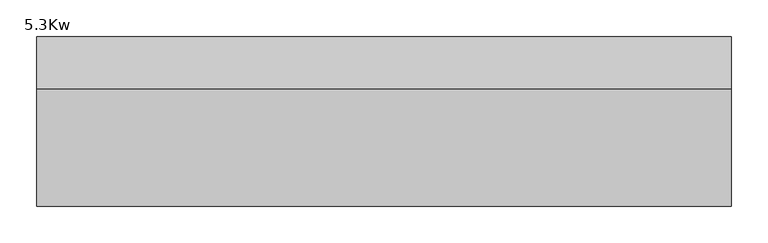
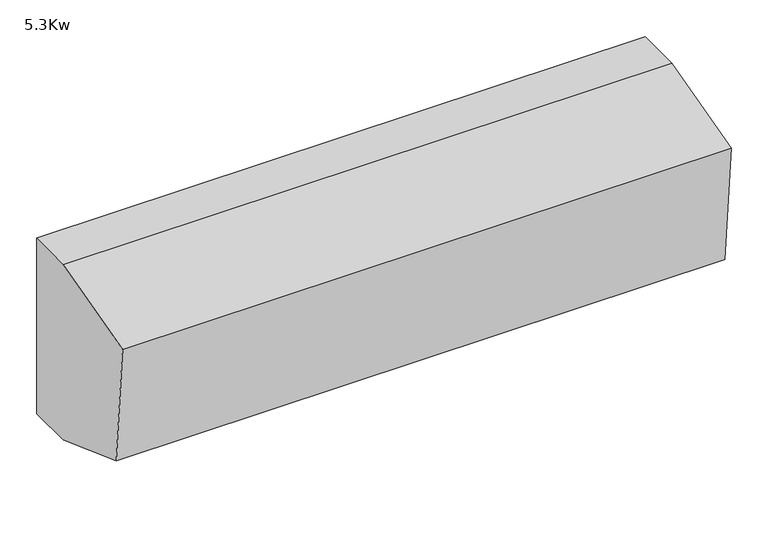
"""IFC4 building model written with IfcOpenShell, lengths in millimetres: proxy geometry, Fan_Coil_Unit-Daikin-FXAQ-P-WallMount-ConnBack : 5.3Kw."""

import ifcopenshell
import ifcopenshell.guid

model = None  # the IFC model being written
_history = None  # IfcOwnerHistory: only IFC2X3 demands one
_inside = {}  # id of a spatial element -> (the spatial element, [elements in it])
_under = {}  # id of a project, library or spatial element -> (it, [spatial elements below it])
_declared = {}  # id of a project -> (the project, [libraries it declares])
_typed = {}  # id of a type object -> (the type object, [elements of that type])
_made_of = {}  # id of a material, layer set ... -> (it, [elements and type objects made of it])


def new_model(schema):
    """Start an empty IFC model of exactly this schema.

    Asked for "IFC4X3", IfcOpenShell would pick the latest addendum, in which some entities
    have other attributes; the version numbers below select the first issue.
    IFC2X3 requires an IfcOwnerHistory on every rooted entity: one is made here for all.
    """
    global model, _history
    if schema == "IFC4X3":
        model = ifcopenshell.file(schema_version=(4, 3, 0, 0))
    else:
        model = ifcopenshell.file(schema=schema)
    _inside.clear()
    _under.clear()
    _declared.clear()
    _typed.clear()
    _made_of.clear()
    _history = None
    if model.schema == "IFC2X3":
        org = make("IfcOrganization", Name="unknown")
        user = make(
            "IfcPersonAndOrganization",
            ThePerson=make("IfcPerson", FamilyName="unknown"),
            TheOrganization=org,
        )
        app = make(
            "IfcApplication",
            ApplicationDeveloper=org,
            Version="unknown",
            ApplicationFullName="unknown",
            ApplicationIdentifier="unknown",
        )
        _history = make(
            "IfcOwnerHistory",
            OwningUser=user,
            OwningApplication=app,
            ChangeAction="ADDED",
            CreationDate=0,
        )
    return model


def make(cls, **values):
    """One entity of the class cls with the attributes given. An attribute that is None is left unset."""
    return model.create_entity(
        cls, **{name: value for name, value in values.items() if value is not None}
    )


def rooted(cls, **values):
    """An entity with a GlobalId (a new one), such as an element, a storey or a relation."""
    return make(cls, GlobalId=ifcopenshell.guid.new(), OwnerHistory=_history, **values)


def si_unit(unit_type, name, prefix=None):
    """IfcSIUnit, for example si_unit("LENGTHUNIT", "METRE", prefix="MILLI")."""
    return make("IfcSIUnit", UnitType=unit_type, Prefix=prefix, Name=name)


def assignment(units):
    """IfcUnitAssignment: the units of a project."""
    return None if units is None else make("IfcUnitAssignment", Units=units)


def point(xyz):
    """IfcCartesianPoint."""
    return None if xyz is None else make("IfcCartesianPoint", Coordinates=xyz)


def direction(xyz):
    """IfcDirection."""
    return None if xyz is None else make("IfcDirection", DirectionRatios=xyz)


def frame(location, z_axis=None, x_axis=None):
    """IfcAxis2Placement3D, a coordinate frame: its origin and axes. An axis left out is left unset."""
    return make(
        "IfcAxis2Placement3D",
        Location=point(location),
        Axis=direction(z_axis),
        RefDirection=direction(x_axis),
    )


def frame_2d(location, x_axis=None):
    """IfcAxis2Placement2D, a coordinate frame in the plane: its origin and x axis."""
    return make(
        "IfcAxis2Placement2D", Location=point(location), RefDirection=direction(x_axis)
    )


def origin():
    """The frame at (0, 0, 0) with its axes left unset."""
    return frame((0.0, 0.0, 0.0))


def place(relative_to, where):
    """IfcLocalPlacement: puts the frame where relative to a parent placement (None: the world)."""
    return make(
        "IfcLocalPlacement", PlacementRelTo=relative_to, RelativePlacement=where
    )


def context(
    kind, dimensions, precision=None, world=None, true_north=None, identifier=None
):
    """IfcGeometricRepresentationContext, for example the 3D "Model" context."""
    return make(
        "IfcGeometricRepresentationContext",
        ContextIdentifier=identifier,
        ContextType=kind,
        CoordinateSpaceDimension=dimensions,
        Precision=precision,
        WorldCoordinateSystem=world,
        TrueNorth=true_north,
    )


def project(units=None, contexts=None):
    """IfcProject with its units and contexts."""
    return rooted(
        "IfcProject",
        Name="project",
        RepresentationContexts=contexts,
        UnitsInContext=assignment(units),
    )


def spatial(cls, under=None, at=None, **own):
    """A site, building, storey or space (cls), placed at a placement, below another one or the project."""
    s = rooted(cls, ObjectPlacement=at, **own)
    if under is not None:
        _under.setdefault(under.id(), (under, []))[1].append(s)
    return s


def polyline(points):
    """IfcPolyline through the points."""
    return make("IfcPolyline", Points=[point(p) for p in points])


def circle_curve(where, radius):
    """IfcCircle in the frame where."""
    return make("IfcCircle", Position=where, Radius=radius)


def trimmed(basis, trim1, trim2, sense, master):
    """IfcTrimmedCurve: the piece of a basis curve between two trims."""
    return make(
        "IfcTrimmedCurve",
        BasisCurve=basis,
        Trim1=trim1,
        Trim2=trim2,
        SenseAgreement=sense,
        MasterRepresentation=master,
    )


def segment(curve, same_sense, transition):
    """IfcCompositeCurveSegment."""
    return make(
        "IfcCompositeCurveSegment",
        Transition=transition,
        SameSense=same_sense,
        ParentCurve=curve,
    )


def composite_curve(segments, self_intersect=None):
    """IfcCompositeCurve: segments joined end to end."""
    return make("IfcCompositeCurve", Segments=segments, SelfIntersect=self_intersect)


def outline(outer, holes=None, kind="AREA"):
    """IfcArbitraryClosedProfileDef: a profile drawn as a closed curve; with holes, ...WithVoids."""
    if holes is None:
        return make("IfcArbitraryClosedProfileDef", ProfileType=kind, OuterCurve=outer)
    return make(
        "IfcArbitraryProfileDefWithVoids",
        ProfileType=kind,
        OuterCurve=outer,
        InnerCurves=holes,
    )


def extrude(swept, where, along, depth):
    """IfcExtrudedAreaSolid: the profile swept, set in the frame where, extruded along a direction by depth."""
    return make(
        "IfcExtrudedAreaSolid",
        SweptArea=swept,
        Position=where,
        ExtrudedDirection=direction(along),
        Depth=depth,
    )


def shape(context_of_items, identifier, shape_type, items):
    """IfcShapeRepresentation: the items that make up one representation, for example the "Body"."""
    return make(
        "IfcShapeRepresentation",
        ContextOfItems=context_of_items,
        RepresentationIdentifier=identifier,
        RepresentationType=shape_type,
        Items=items,
    )


def source(mapping_origin, context_of_items, identifier, shape_type, items):
    """IfcRepresentationMap: a shape defined once, which mapped items show again and again."""
    return make(
        "IfcRepresentationMap",
        MappingOrigin=mapping_origin,
        MappedRepresentation=shape(context_of_items, identifier, shape_type, items),
    )


def transform(
    local_origin,
    x_axis=None,
    y_axis=None,
    z_axis=None,
    scale=None,
    scale2=None,
    scale3=None,
    uniform=True,
):
    """IfcCartesianTransformationOperator3D, or its non-uniform kind. x_axis, y_axis, z_axis: its Axis1, 2, 3."""
    if uniform:
        return make(
            "IfcCartesianTransformationOperator3D",
            Axis1=direction(x_axis),
            Axis2=direction(y_axis),
            LocalOrigin=point(local_origin),
            Scale=scale,
            Axis3=direction(z_axis),
        )
    return make(
        "IfcCartesianTransformationOperator3DnonUniform",
        Axis1=direction(x_axis),
        Axis2=direction(y_axis),
        LocalOrigin=point(local_origin),
        Scale=scale,
        Axis3=direction(z_axis),
        Scale2=scale2,
        Scale3=scale3,
    )


def mapped(mapping_source, mapping_target):
    """IfcMappedItem: shows the shape of a source again, moved by a transform."""
    return make(
        "IfcMappedItem", MappingSource=mapping_source, MappingTarget=mapping_target
    )


def made_of(thing, what):
    """Note that an element or type object is made of a material, layer set ...; save() writes the relation."""
    if what is not None:
        _made_of.setdefault(what.id(), (what, []))[1].append(thing)
    return thing


def element(
    cls,
    number,
    at=None,
    inside=None,
    cuts=None,
    type_object=None,
    material=None,
    context=None,
    identifier="Body",
    shape_type=None,
    held_by="IfcProductDefinitionShape",
    body=None,
    shapes=None,
    **own,
):
    """One element of the class cls, such as IfcWall. Its Tag is "e" and its number.

    at: its placement. inside: the storey or other place that contains it. cuts: it is an
    opening in that element (IfcRelVoidsElement). A single representation is given by context,
    identifier, shape_type and body (its items); several are given by shapes. held_by: the class
    of the entity that holds the representations. save() writes the other relations.
    """
    e = rooted(cls, Tag="e%d" % number, ObjectPlacement=at, **own)
    if body is not None:
        shapes = [shape(context, identifier, shape_type, body)]
    if shapes is not None:
        e.Representation = make(held_by, Representations=shapes)
    if inside is not None:
        _inside.setdefault(inside.id(), (inside, []))[1].append(e)
    if cuts is not None:
        rooted(
            "IfcRelVoidsElement", RelatingBuildingElement=cuts, RelatedOpeningElement=e
        )
    if type_object is not None:
        _typed.setdefault(type_object.id(), (type_object, []))[1].append(e)
    return made_of(e, material)


def aggregate(whole, parts):
    """IfcRelAggregates: a whole, such as a stair, and the parts it consists of."""
    return rooted("IfcRelAggregates", RelatingObject=whole, RelatedObjects=parts)


def save(model, path):
    """Write the relations noted so far, then the file.

    IfcRelAggregates (storeys below a building ...), IfcRelContainedInSpatialStructure (elements
    in a storey), IfcRelDefinesByType, IfcRelAssociatesMaterial and IfcRelDeclares: one each for
    every whole, place, type object, material and project.
    """
    for whole, parts in _under.values():
        aggregate(whole, parts)
    for where, things in _inside.values():
        rooted(
            "IfcRelContainedInSpatialStructure",
            RelatedElements=things,
            RelatingStructure=where,
        )
    for kind, things in _typed.values():
        rooted("IfcRelDefinesByType", RelatedObjects=things, RelatingType=kind)
    for what, things in _made_of.values():
        rooted("IfcRelAssociatesMaterial", RelatedObjects=things, RelatingMaterial=what)
    for by, libraries in _declared.values():
        rooted("IfcRelDeclares", RelatingContext=by, RelatedDefinitions=libraries)
    model.write(path)


def plane_surface(at):
    """IfcPlane: the flat surface through the origin of the frame at, square to its z axis."""
    return make("IfcPlane", Position=at)


def revolved_surface(curve, axis_point, axis_direction):
    """IfcSurfaceOfRevolution: the curve turned about the line through axis_point along axis_direction."""
    return make(
        "IfcSurfaceOfRevolution",
        SweptCurve=make("IfcArbitraryOpenProfileDef", ProfileType="CURVE", Curve=curve),
        AxisPosition=make("IfcAxis1Placement", Location=point(axis_point), Axis=direction(axis_direction)),
    )


def advanced_brep(points, edges, surfaces, faces):
    """IfcAdvancedBrep: a solid bounded by faces that lie on surfaces and meet in shared edges.

    An edge is (start, end): straight between two places in points (the first is 0);
    or (start, end, curve); or (start, end, curve, False) where it runs against its curve.
    A face is (place in surfaces, loops), or (place, loops, False) where it looks against
    its surface's normal. A loop lists edges by number (the first is 1), with a minus sign
    where the edge is run from its end to its start. The first loop is the outer one.
    """
    corners = [point(p) for p in points]
    vertices = [make("IfcVertexPoint", VertexGeometry=c) for c in corners]
    made = []
    for start, end, *more in edges:
        made.append(
            make(
                "IfcEdgeCurve",
                EdgeStart=vertices[start],
                EdgeEnd=vertices[end],
                EdgeGeometry=more[0] if more else make("IfcPolyline", Points=[corners[start], corners[end]]),
                SameSense=more[1] if len(more) > 1 else True,
            )
        )
    hull = []
    for where, loops, *sense in faces:
        bounds = []
        for j, loop in enumerate(loops):
            ring = [make("IfcOrientedEdge", EdgeElement=made[abs(k) - 1], Orientation=k > 0) for k in loop]
            bounds.append(
                make(
                    "IfcFaceOuterBound" if j == 0 else "IfcFaceBound",
                    Bound=make("IfcEdgeLoop", EdgeList=ring),
                    Orientation=True,
                )
            )
        hull.append(make("IfcAdvancedFace", Bounds=bounds, FaceSurface=surfaces[where], SameSense=sense[0] if sense else True))
    return make("IfcAdvancedBrep", Outer=make("IfcClosedShell", CfsFaces=hull))


def proxy_5_3kw_afc13b87(model_context):
    return source(origin(), model_context, "Body", "SolidModel", [
        extrude(outline(composite_curve([segment(trimmed(circle_curve(frame_2d((57.15, -433.725)), 8.73125), [point((57.15, -442.45625))], [point((57.15, -424.99375))], False, "CARTESIAN"), True, "CONTINUOUS"), segment(trimmed(circle_curve(frame_2d((57.15, -433.725)), 8.73125), [point((57.15, -424.99375))], [point((57.15, -442.45625))], False, "CARTESIAN"), True, "CONTINUOUS")], self_intersect=False)), frame((0.0, 106.3625, 0.0), z_axis=(0.0, 1.0, 0.0), x_axis=(0.0, 0.0, 1.0)), (0.0, 0.0, 1.0), 9.525),
        extrude(outline(composite_curve([segment(trimmed(circle_curve(frame_2d((25.4, -408.325)), 6.35), [point((25.4, -414.675))], [point((25.4, -401.975))], False, "CARTESIAN"), True, "CONTINUOUS"), segment(trimmed(circle_curve(frame_2d((25.4, -408.325)), 6.35), [point((25.4, -401.975))], [point((25.4, -414.675))], False, "CARTESIAN"), True, "CONTINUOUS")], self_intersect=False)), frame((0.0, 106.3625, 0.0), z_axis=(0.0, 1.0, 0.0), x_axis=(0.0, 0.0, 1.0)), (0.0, 0.0, 1.0), 9.525),
        advanced_brep(
        [(475.0, 115.8875, 290.0), (475.0, 44.45, 290.0), (475.0, -115.979396, 247.0130729), (475.0, -98.9343798, 52.1876463), (475.0, 44.45, 0.0), (475.0, 115.8875, 0.0), (-475.0, 115.8875, 290.0), (-475.0, 115.8875, 0.0), (-475.0, 44.45, 0.0), (-475.0, -98.9343798, 52.1876463), (-475.0, -115.979396, 247.0130729), (-475.0, 44.45, 290.0), (-454.375, 115.8875, 44.45), (-374.975, 115.8875, 44.45), (-454.375, 106.3625, 44.45), (-374.975, 106.3625, 44.45)],
        [
            (0, 1),
            (1, 2),
            (2, 3),
            (3, 4),
            (4, 5),
            (5, 0),
            (6, 7),
            (7, 8),
            (8, 9),
            (9, 10),
            (10, 11),
            (11, 6),
            (0, 6),
            (11, 1),
            (10, 2),
            (9, 3),
            (8, 4),
            (7, 5),
            (12, 13, circle_curve(frame((-414.675, 115.8875, 44.45), z_axis=(0.0, -1.0, 0.0), x_axis=(1.0, 0.0, 0.0)), 39.7)),
            (13, 12, circle_curve(frame((-414.675, 115.8875, 44.45), z_axis=(0.0, -1.0, 0.0), x_axis=(1.0, 0.0, 0.0)), 39.7)),
            (14, 15, circle_curve(frame((-414.675, 106.3625, 44.45), z_axis=(0.0, 1.0, 0.0), x_axis=(1.0, 0.0, 0.0)), 39.7)),
            (15, 14, circle_curve(frame((-414.675, 106.3625, 44.45), z_axis=(0.0, 1.0, 0.0), x_axis=(1.0, 0.0, 0.0)), 39.7)),
            (15, 13),
            (12, 14),
        ],
        [
            plane_surface(frame((475.0, 115.8875, 290.0), z_axis=(1.0, 0.0, 0.0), x_axis=(0.0, -1.0, 0.0))),
            plane_surface(frame((-475.0, 115.8875, 290.0), z_axis=(-1.0, 0.0, 0.0), x_axis=(0.0, 1.0, 0.0))),
            plane_surface(frame((475.0, 115.8875, 290.0), z_axis=(0.0, 0.0, 1.0), x_axis=(-1.0, 0.0, 0.0))),
            plane_surface(frame((475.0, 44.45, 290.0), z_axis=(0.0, -0.25881904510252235, 0.9659258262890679), x_axis=(-1.0, 0.0, 0.0))),
            plane_surface(frame((475.0, -115.979396, 247.0130729), z_axis=(0.0, -0.9961946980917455, -0.08715574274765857), x_axis=(-1.0, 0.0, 0.0))),
            plane_surface(frame((475.0, -98.9343798, 52.1876463), z_axis=(0.0, -0.34202014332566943, -0.9396926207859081), x_axis=(-1.0, 0.0, 0.0))),
            plane_surface(frame((475.0, 44.45, 0.0), z_axis=(0.0, 0.0, -1.0), x_axis=(-1.0, 0.0, 0.0))),
            plane_surface(frame((475.0, 115.8875, 0.0), z_axis=(0.0, 1.0, 0.0), x_axis=(-1.0, 0.0, 0.0))),
            plane_surface(frame((-374.975, 106.3625, 44.45), z_axis=(0.0, 1.0, 0.0), x_axis=(0.0, 0.0, 1.0))),
            revolved_surface(polyline([(-374.975, 106.3625, 44.45), (-374.975, 115.8875, 44.45)]), (-414.675, 115.8875, 44.45), (0.0, -1.0, 0.0)),
        ],
        [
            (0, [[1, 2, 3, 4, 5, 6]]),
            (1, [[7, 8, 9, 10, 11, 12]]),
            (2, [[-1, 13, -12, 14]]),
            (3, [[-2, -14, -11, 15]]),
            (4, [[-3, -15, -10, 16]]),
            (5, [[-4, -16, -9, 17]]),
            (6, [[-5, -17, -8, 18]]),
            (7, [[-6, -18, -7, -13], [19, 20]]),
            (8, [[21, 22]]),
            (9, [[-22, 23, -19, 24]]),
            (9, [[-21, -24, -20, -23]]),
        ],
    ),
        extrude(outline(composite_curve([segment(trimmed(circle_curve(frame_2d((63.5, -395.625)), 3.175), [point((63.5, -398.8))], [point((63.5, -392.45))], False, "CARTESIAN"), True, "CONTINUOUS"), segment(trimmed(circle_curve(frame_2d((63.5, -395.625)), 3.175), [point((63.5, -392.45))], [point((63.5, -398.8))], False, "CARTESIAN"), True, "CONTINUOUS")], self_intersect=False)), frame((0.0, 106.3625, 0.0), z_axis=(0.0, 1.0, 0.0), x_axis=(0.0, 0.0, 1.0)), (0.0, 0.0, 1.0), 9.525),
    ])


if __name__ == "__main__":
    model = new_model("IFC4")
    model_context = context("Model", 3, world=origin())
    ifc_project = project(units=[si_unit("LENGTHUNIT", "METRE", prefix="MILLI")], contexts=[model_context])
    site = spatial("IfcSite", under=ifc_project)
    building = spatial("IfcBuilding", under=site)
    placement = place(None, origin())
    proxy_5_3kw_shape = proxy_5_3kw_afc13b87(model_context)
    element("IfcBuildingElementProxy", 1, Name="Fan_Coil_Unit-Daikin-FXAQ-P-WallMount-ConnBack : 5.3Kw", ObjectType="Fan_Coil_Unit-Daikin-FXAQ-P-WallMount-ConnBack : 5.3Kw", at=placement, inside=building, context=model_context, shape_type="MappedRepresentation", body=[
        mapped(proxy_5_3kw_shape, transform((0.0, 0.0, 0.0), x_axis=(1.0, 0.0, 0.0), y_axis=(0.0, 1.0, 0.0), z_axis=(0.0, 0.0, 1.0))),
    ])
    save(model, "model.ifc")
